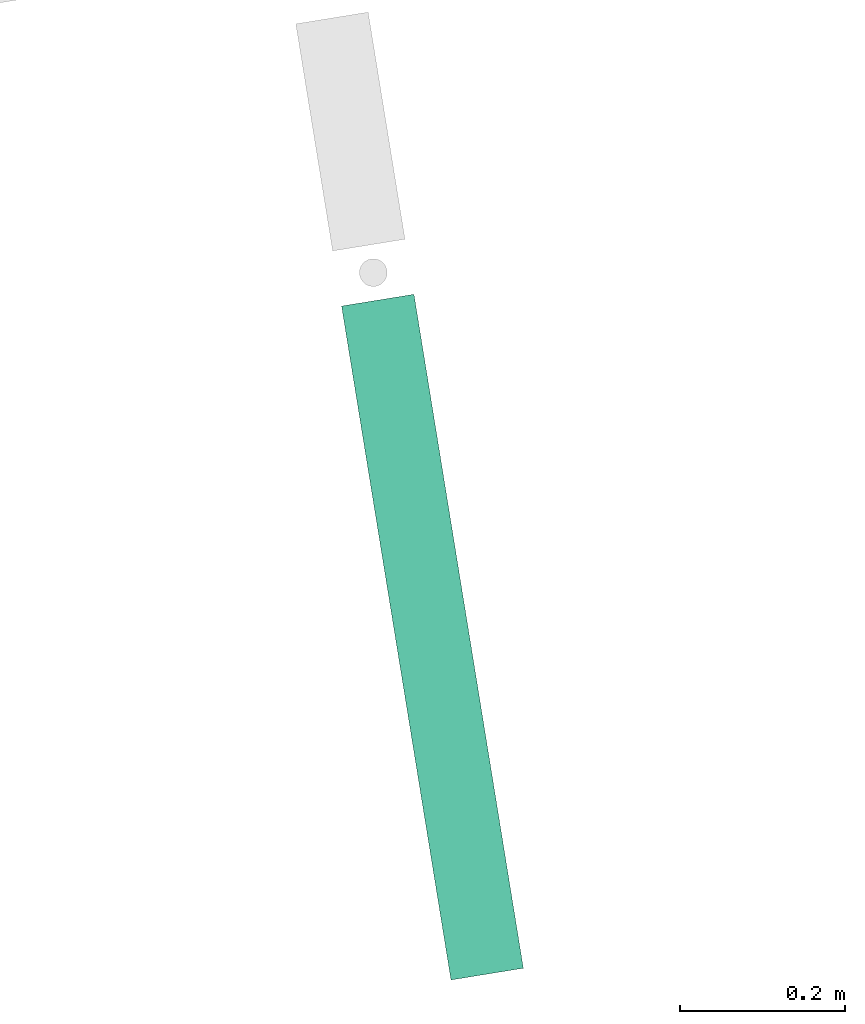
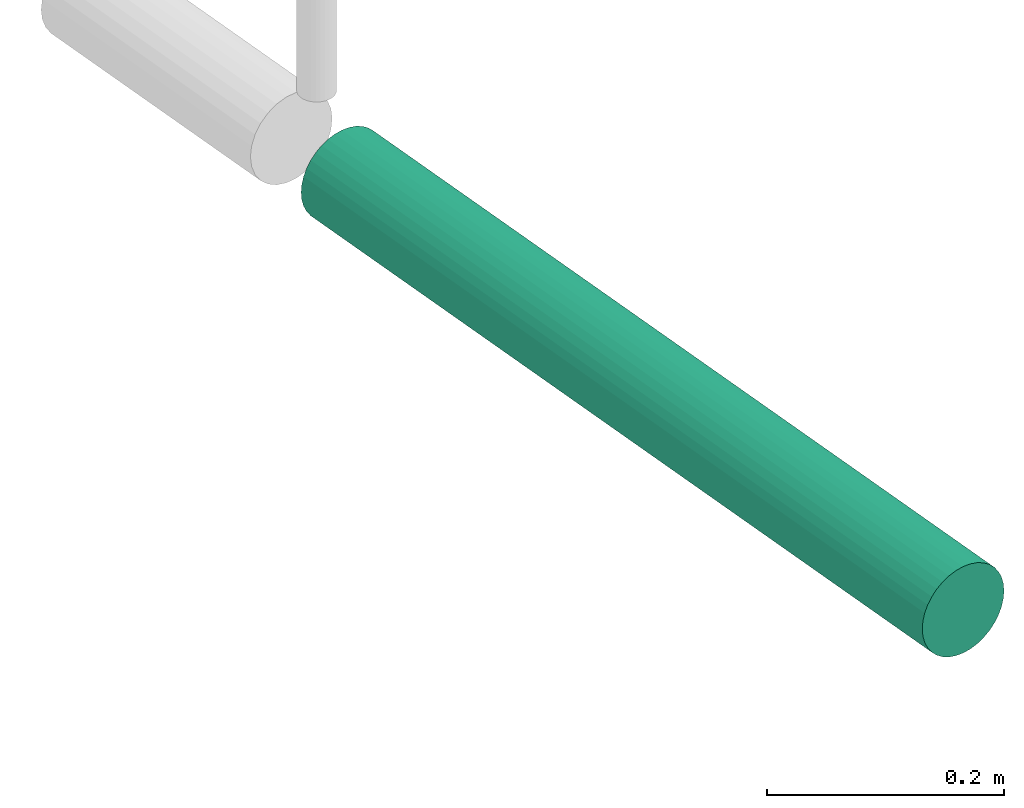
# One storey, part 8 of 8: 1 flow segment.
"""IFC2X3 building model written with IfcOpenShell, lengths in millimetres."""

from ifc_helpers import new_model, entity, si_unit, converted_unit, derived_unit, direction, frame, origin, origin_with_axes, place, context, subcontext, project, spatial, faceted_brep, type_object, element, save


model = new_model("IFC2X3")

# Units and contexts
plan_context = context("Plan", 3, precision=1e-05, world=origin_with_axes())
model_context = context("Model", 3, precision=0.01, world=origin(), true_north=direction((6.12323399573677e-17, 1.0)))
body_context = subcontext(model_context, "Body", "Model", "MODEL_VIEW")
ifc_project = project(units=[converted_unit("PLANEANGLEUNIT", "DEGREE", entity("IfcPositiveLengthMeasure", 0.0174532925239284), si_unit("PLANEANGLEUNIT", "RADIAN"), dimensions=[0, 0, 0, 0, 0, 0, 0]), si_unit("AREAUNIT", "SQUARE_METRE"), si_unit("LENGTHUNIT", "METRE", prefix="MILLI"), si_unit("MASSUNIT", "GRAM", prefix="KILO"), si_unit("POWERUNIT", "WATT"), si_unit("PRESSUREUNIT", "PASCAL", prefix="KILO"), si_unit("FORCEUNIT", "NEWTON", prefix="KILO"), si_unit("ELECTRICVOLTAGEUNIT", "VOLT"), si_unit("ELECTRICCURRENTUNIT", "AMPERE"), si_unit("THERMODYNAMICTEMPERATUREUNIT", "DEGREE_CELSIUS"), si_unit("TIMEUNIT", "SECOND"), si_unit("VOLUMEUNIT", "CUBIC_METRE"), derived_unit("LINEARVELOCITYUNIT", [(si_unit("LENGTHUNIT", "METRE"), 1), (si_unit("TIMEUNIT", "SECOND"), -1)]), derived_unit("VOLUMETRICFLOWRATEUNIT", [(si_unit("VOLUMEUNIT", "CUBIC_METRE"), 1), (si_unit("TIMEUNIT", "SECOND"), -1)]), derived_unit("THERMALTRANSMITTANCEUNIT", [(si_unit("POWERUNIT", "WATT"), 1), (si_unit("THERMODYNAMICTEMPERATUREUNIT", "KELVIN"), -1), (si_unit("AREAUNIT", "SQUARE_METRE"), -1)]), derived_unit("SOUNDPRESSUREUNIT", [(si_unit("PRESSUREUNIT", "PASCAL"), 1)])], contexts=[model_context, plan_context])

# Site, building, storey
site_placement = place(None, frame((-0.00071070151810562, 0.00438415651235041, 0.0), z_axis=(0.0, 0.0, 1.0), x_axis=(-0.160236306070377, 0.987078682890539, 0.0)))
site = spatial("IfcSite", under=ifc_project, at=site_placement, Name="Default", CompositionType="ELEMENT")
building_placement = place(site_placement, origin_with_axes())
building = spatial("IfcBuilding", under=site, at=building_placement, CompositionType="ELEMENT")
storey_placement = place(building_placement, frame((0.0, 0.0, 58999.9999999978), z_axis=(0.0, 0.0, 1.0), x_axis=(1.0, 0.0, 0.0)))
storey = spatial("IfcBuildingStorey", under=building, at=storey_placement, Name="Nivå F", CompositionType="ELEMENT", Elevation=58999.9999999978)

# Flow segment
pipe_segment_type = type_object("IfcPipeSegmentType", Name="Pipe Types:Stålrør normaltykke", PredefinedType="NOTDEFINED")
flow_segment_placement = place(storey_placement, origin_with_axes())
element("IfcFlowSegment", 1, at=flow_segment_placement, inside=storey, type_object=pipe_segment_type, Name="Pipe Types:Stålrør normaltykke", ObjectType="Pipe Types:Stålrør normaltykke", context=body_context, shape_type="Brep", body=[
    faceted_brep([(763050.119644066, -504750.59867278, 2879.99999999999), (763050.119644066, -504751.273968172, 2872.28133835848), (763877.798660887, -504751.273968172, 2872.28133835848), (763877.798660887, -504750.59867278, 2879.99999999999), (763050.119644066, -504751.273968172, 2887.7186616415), (763877.798660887, -504751.273968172, 2887.7186616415), (763050.119644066, -504753.279335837, 2895.20279565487), (763877.798660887, -504753.279335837, 2895.20279565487), (763050.119644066, -504756.553843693, 2902.22500041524), (763877.798660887, -504756.553843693, 2902.22500041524), (763050.119644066, -504760.997997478, 2908.5719097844), (763877.798660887, -504760.997997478, 2908.5719097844), (763050.119644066, -504766.476763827, 2914.05067613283), (763877.798660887, -504766.476763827, 2914.05067613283), (763050.119644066, -504772.823673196, 2918.49482991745), (763877.798660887, -504772.823673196, 2918.49482991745), (763050.119644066, -504779.845877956, 2921.76933777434), (763877.798660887, -504779.845877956, 2921.76933777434), (763050.119644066, -504787.330011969, 2923.77470543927), (763877.798660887, -504787.330011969, 2923.77470543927), (763050.119644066, -504795.048673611, 2924.45000083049), (763877.798660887, -504795.048673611, 2924.45000083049), (763050.119644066, -504802.767335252, 2923.77470543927), (763877.798660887, -504802.767335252, 2923.77470543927), (763050.119644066, -504810.251469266, 2921.76933777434), (763877.798660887, -504810.251469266, 2921.76933777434), (763050.119644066, -504817.273674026, 2918.49482991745), (763877.798660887, -504817.273674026, 2918.49482991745), (763050.119644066, -504823.620583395, 2914.05067613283), (763877.798660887, -504823.620583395, 2914.05067613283), (763050.119644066, -504829.099349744, 2908.5719097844), (763877.798660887, -504829.099349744, 2908.5719097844), (763050.119644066, -504833.543503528, 2902.22500041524), (763877.798660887, -504833.543503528, 2902.22500041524), (763050.119644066, -504836.818011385, 2895.20279565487), (763877.798660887, -504836.818011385, 2895.20279565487), (763050.119644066, -504838.82337905, 2887.7186616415), (763877.798660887, -504838.82337905, 2887.7186616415), (763050.119644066, -504839.498674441, 2879.99999999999), (763877.798660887, -504839.498674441, 2879.99999999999), (763050.119644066, -504838.82337905, 2872.28133835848), (763877.798660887, -504838.82337905, 2872.28133835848), (763050.119644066, -504836.818011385, 2864.79720434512), (763877.798660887, -504836.818011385, 2864.79720434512), (763050.119644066, -504833.543503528, 2857.77499958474), (763877.798660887, -504833.543503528, 2857.77499958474), (763050.119644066, -504829.099349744, 2851.42809021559), (763877.798660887, -504829.099349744, 2851.42809021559), (763050.119644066, -504823.620583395, 2845.94932386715), (763877.798660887, -504823.620583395, 2845.94932386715), (763050.119644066, -504817.273674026, 2841.50517008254), (763877.798660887, -504817.273674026, 2841.50517008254), (763050.119644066, -504810.251469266, 2838.23066222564), (763877.798660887, -504810.251469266, 2838.23066222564), (763050.119644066, -504802.767335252, 2836.22529456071), (763877.798660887, -504802.767335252, 2836.22529456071), (763050.119644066, -504795.048673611, 2835.54999916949), (763877.798660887, -504795.048673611, 2835.54999916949), (763050.119644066, -504787.330011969, 2836.22529456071), (763877.798660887, -504787.330011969, 2836.22529456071), (763050.119644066, -504779.845877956, 2838.23066222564), (763877.798660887, -504779.845877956, 2838.23066222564), (763050.119644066, -504772.823673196, 2841.50517008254), (763877.798660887, -504772.823673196, 2841.50517008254), (763050.119644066, -504766.476763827, 2845.94932386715), (763877.798660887, -504766.476763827, 2845.94932386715), (763050.119644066, -504760.997997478, 2851.42809021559), (763877.798660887, -504760.997997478, 2851.42809021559), (763050.119644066, -504756.553843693, 2857.77499958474), (763877.798660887, -504756.553843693, 2857.77499958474), (763050.119644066, -504753.279335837, 2864.79720434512), (763877.798660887, -504753.279335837, 2864.79720434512)], [[[0, 1, 2, 3]], [[4, 0, 3, 5]], [[6, 4, 5, 7]], [[8, 6, 7, 9]], [[10, 8, 9, 11]], [[12, 10, 11, 13]], [[14, 12, 13, 15]], [[16, 14, 15, 17]], [[18, 16, 17, 19]], [[20, 18, 19, 21]], [[22, 20, 21, 23]], [[24, 22, 23, 25]], [[26, 24, 25, 27]], [[28, 26, 27, 29]], [[30, 28, 29, 31]], [[32, 30, 31, 33]], [[34, 32, 33, 35]], [[36, 34, 35, 37]], [[38, 36, 37, 39]], [[40, 38, 39, 41]], [[42, 40, 41, 43]], [[44, 42, 43, 45]], [[46, 44, 45, 47]], [[48, 46, 47, 49]], [[50, 48, 49, 51]], [[52, 50, 51, 53]], [[54, 52, 53, 55]], [[56, 54, 55, 57]], [[58, 56, 57, 59]], [[60, 58, 59, 61]], [[62, 60, 61, 63]], [[64, 62, 63, 65]], [[66, 64, 65, 67]], [[68, 66, 67, 69]], [[70, 68, 69, 71]], [[1, 70, 71, 2]], [[3, 2, 71, 69, 67, 65, 63, 61, 59, 57, 55, 53, 51, 49, 47, 45, 43, 41, 39, 37, 35, 33, 31, 29, 27, 25, 23, 21, 19, 17, 15, 13, 11, 9, 7, 5]], [[4, 6, 8, 10, 12, 14, 16, 18, 20, 22, 24, 26, 28, 30, 32, 34, 36, 38, 40, 42, 44, 46, 48, 50, 52, 54, 56, 58, 60, 62, 64, 66, 68, 70, 1, 0]]], orient=[[False], [False], [False], [False], [False], [False], [False], [False], [False], [False], [False], [False], [False], [False], [False], [False], [False], [False], [False], [False], [False], [False], [False], [False], [False], [False], [False], [False], [False], [False], [False], [False], [False], [False], [False], [False], [False], [False]]),
])

save(model, "model.ifc")
